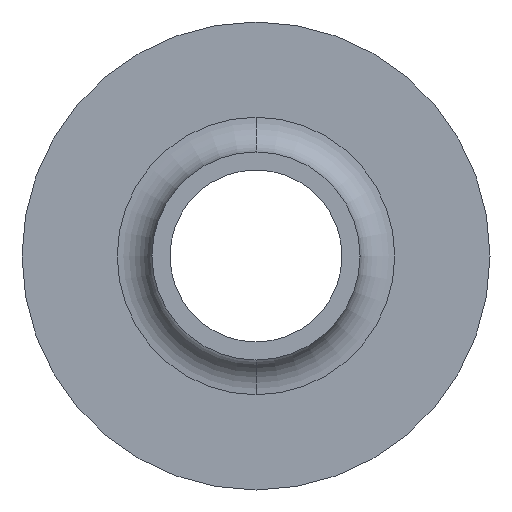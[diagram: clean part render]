
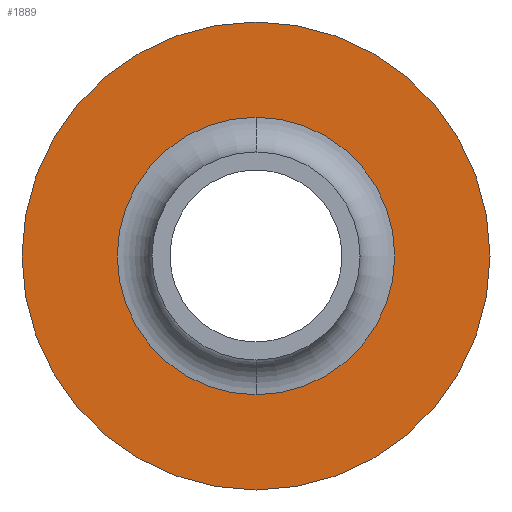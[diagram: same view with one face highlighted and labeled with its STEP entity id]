
A CAD part, front view. The second image highlights one B-rep face of the part: STEP entity #1889.
In plain terms, the highlighted planar face has unit normal (0, -1, 0).
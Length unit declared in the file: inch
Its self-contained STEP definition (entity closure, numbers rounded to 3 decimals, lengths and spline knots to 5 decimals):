
#16 = CARTESIAN_POINT ( 'NONE',  ( 0., 0.41989, 0. ) ) ;
#17 = FACE_OUTER_BOUND ( 'NONE', #1576, .T. ) ;
#59 = CIRCLE ( 'NONE', #1034, 0.8435 ) ;
#119 = AXIS2_PLACEMENT_3D ( 'NONE', #1444, #1620, #1588 ) ;
#188 = DIRECTION ( 'NONE',  ( 0., 0., -1. ) ) ;
#221 = PLANE ( 'NONE',  #119 ) ;
#282 = ORIENTED_EDGE ( 'NONE', *, *, #1731, .T. ) ;
#290 = VERTEX_POINT ( 'NONE', #445 ) ;
#346 = CARTESIAN_POINT ( 'NONE',  ( 0., 0.41989, 0. ) ) ;
#348 = CARTESIAN_POINT ( 'NONE',  ( 0., 0.41989, 0. ) ) ;
#404 = CARTESIAN_POINT ( 'NONE',  ( 0., 0.41989, 0.5 ) ) ;
#445 = CARTESIAN_POINT ( 'NONE',  ( 0., 0.41989, -0.5 ) ) ;
#525 = DIRECTION ( 'NONE',  ( 0., 0., -1. ) ) ;
#608 = CIRCLE ( 'NONE', #1172, 0.5 ) ;
#649 = AXIS2_PLACEMENT_3D ( 'NONE', #346, #1577, #525 ) ;
#705 = ORIENTED_EDGE ( 'NONE', *, *, #1031, .T. ) ;
#903 = FACE_BOUND ( 'NONE', #1518, .T. ) ;
#905 = AXIS2_PLACEMENT_3D ( 'NONE', #16, #1239, #188 ) ;
#1015 = CARTESIAN_POINT ( 'NONE',  ( 0., 0.41989, 0. ) ) ;
#1031 = EDGE_CURVE ( 'NONE', #1665, #1618, #59, .T. ) ;
#1034 = AXIS2_PLACEMENT_3D ( 'NONE', #348, #2050, #2189 ) ;
#1095 = ORIENTED_EDGE ( 'NONE', *, *, #1515, .F. ) ;
#1166 = CIRCLE ( 'NONE', #649, 0.5 ) ;
#1172 = AXIS2_PLACEMENT_3D ( 'NONE', #1015, #2200, #1184 ) ;
#1184 = DIRECTION ( 'NONE',  ( 0., 0., -1. ) ) ;
#1218 = CARTESIAN_POINT ( 'NONE',  ( 0., 0.41989, 0.8435 ) ) ;
#1237 = VERTEX_POINT ( 'NONE', #404 ) ;
#1239 = DIRECTION ( 'NONE',  ( 0., -1., 0. ) ) ;
#1373 = CARTESIAN_POINT ( 'NONE',  ( 0., 0.41989, -0.8435 ) ) ;
#1444 = CARTESIAN_POINT ( 'NONE',  ( -0.8435, 0.41989, 0. ) ) ;
#1515 = EDGE_CURVE ( 'NONE', #1237, #290, #608, .T. ) ;
#1518 = EDGE_LOOP ( 'NONE', ( #1663, #1095 ) ) ;
#1569 = CIRCLE ( 'NONE', #905, 0.8435 ) ;
#1576 = EDGE_LOOP ( 'NONE', ( #282, #705 ) ) ;
#1577 = DIRECTION ( 'NONE',  ( 0., -1., 0. ) ) ;
#1588 = DIRECTION ( 'NONE',  ( 0., 0., 1. ) ) ;
#1618 = VERTEX_POINT ( 'NONE', #1373 ) ;
#1620 = DIRECTION ( 'NONE',  ( 0., 1., 0. ) ) ;
#1663 = ORIENTED_EDGE ( 'NONE', *, *, #1714, .F. ) ;
#1665 = VERTEX_POINT ( 'NONE', #1218 ) ;
#1714 = EDGE_CURVE ( 'NONE', #290, #1237, #1166, .T. ) ;
#1731 = EDGE_CURVE ( 'NONE', #1618, #1665, #1569, .T. ) ;
#1889 = ADVANCED_FACE ( 'NONE', ( #903, #17 ), #221, .F. ) ;
#2050 = DIRECTION ( 'NONE',  ( 0., -1., 0. ) ) ;
#2189 = DIRECTION ( 'NONE',  ( 0., 0., -1. ) ) ;
#2200 = DIRECTION ( 'NONE',  ( 0., -1., 0. ) ) ;
